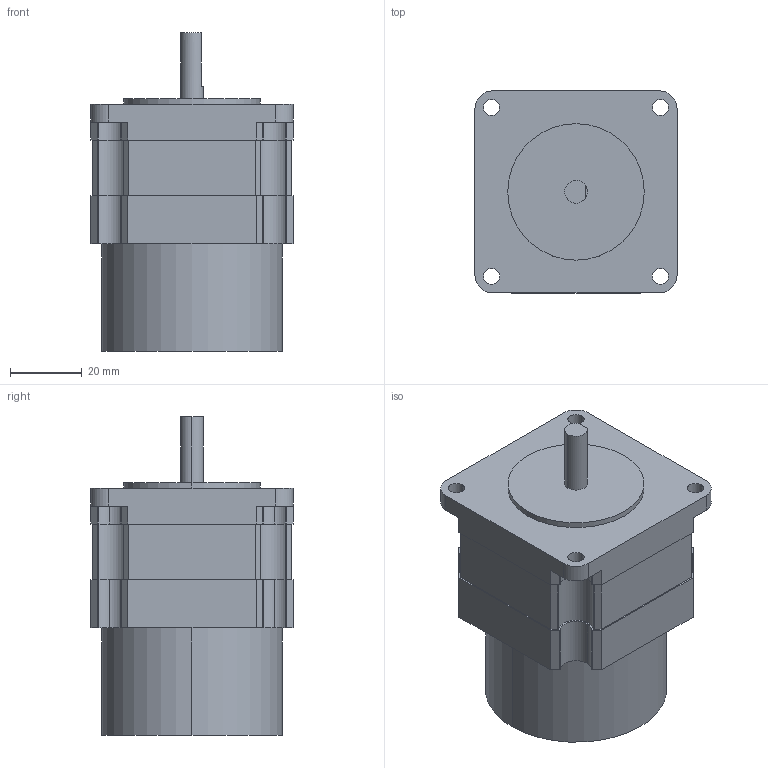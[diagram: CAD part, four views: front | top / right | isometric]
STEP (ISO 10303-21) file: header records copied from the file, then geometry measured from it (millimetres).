
FILE_DESCRIPTION (( 'STEP AP214' ), '1' );
FILE_NAME ('K264-02M.STEP', '2016-09-08T09:20:49', ( 'hoho' ), ( '' ), 'SwSTEP 2.0', 'SolidWorks 2013', '' );
FILE_SCHEMA (( 'AUTOMOTIVE_DESIGN' ));
Length unit declared in the file: millimetre
Products named in the file (1): K264-02M
Bounding box: 56.4 x 56.4 x 89 mm (x, y, z)
Volume: 173200.7 mm3; surface area: 20532.4 mm2
Topology: 1 solids, 1 shells, 115 faces, 324 edges, 216 vertices
Faces by surface type: cylinder 66, plane 49
Entity records: 4130 total; most frequent: DIRECTION 690, CARTESIAN_POINT 656, ORIENTED_EDGE 648, EDGE_CURVE 324, AXIS2_PLACEMENT_3D 250, VERTEX_POINT 216, VECTOR 190, LINE 190
